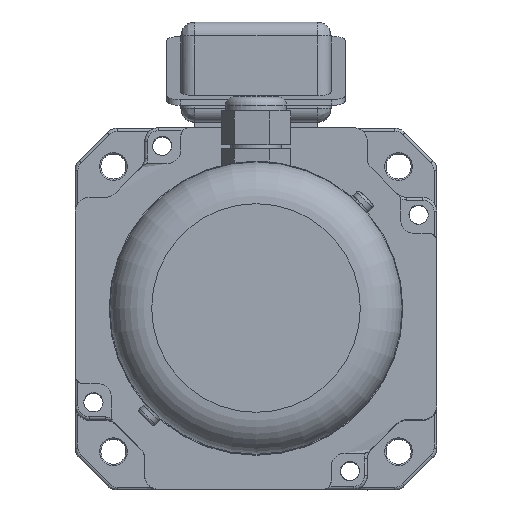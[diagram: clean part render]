
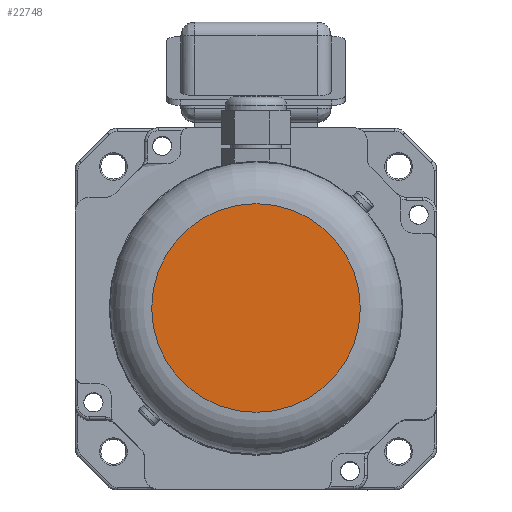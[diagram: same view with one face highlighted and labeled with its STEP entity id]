
A CAD part, top view. The second image highlights one B-rep face of the part: STEP entity #22748.
In plain terms, the highlighted planar face has unit normal (0, 0, 1).
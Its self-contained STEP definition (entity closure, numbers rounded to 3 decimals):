
#2392 = PLANE ( 'NONE',  #28371 ) ;
#4482 = FACE_OUTER_BOUND ( 'NONE', #10587, .T. ) ;
#5025 = CARTESIAN_POINT ( 'NONE',  ( 0., 0., 249.7 ) ) ;
#10396 = DIRECTION ( 'NONE',  ( 0., 0., 1. ) ) ;
#10587 = EDGE_LOOP ( 'NONE', ( #11543 ) ) ;
#11543 = ORIENTED_EDGE ( 'NONE', *, *, #16821, .T. ) ;
#16821 = EDGE_CURVE ( 'NONE', #26550, #26550, #22617, .T. ) ;
#17484 = CARTESIAN_POINT ( 'NONE',  ( 0., 0., 249.7 ) ) ;
#20502 = CARTESIAN_POINT ( 'NONE',  ( 37.5, 0., 249.7 ) ) ;
#22303 = DIRECTION ( 'NONE',  ( 1., 0., 0. ) ) ;
#22617 = CIRCLE ( 'NONE', #22674, 37.5 ) ;
#22674 = AXIS2_PLACEMENT_3D ( 'NONE', #17484, #10396, #22303 ) ;
#22748 = ADVANCED_FACE ( 'NONE', ( #4482 ), #2392, .T. ) ;
#24236 = DIRECTION ( 'NONE',  ( 0., 0., 1. ) ) ;
#26550 = VERTEX_POINT ( 'NONE', #20502 ) ;
#26581 = DIRECTION ( 'NONE',  ( 1., 0., 0. ) ) ;
#28371 = AXIS2_PLACEMENT_3D ( 'NONE', #5025, #24236, #26581 ) ;
